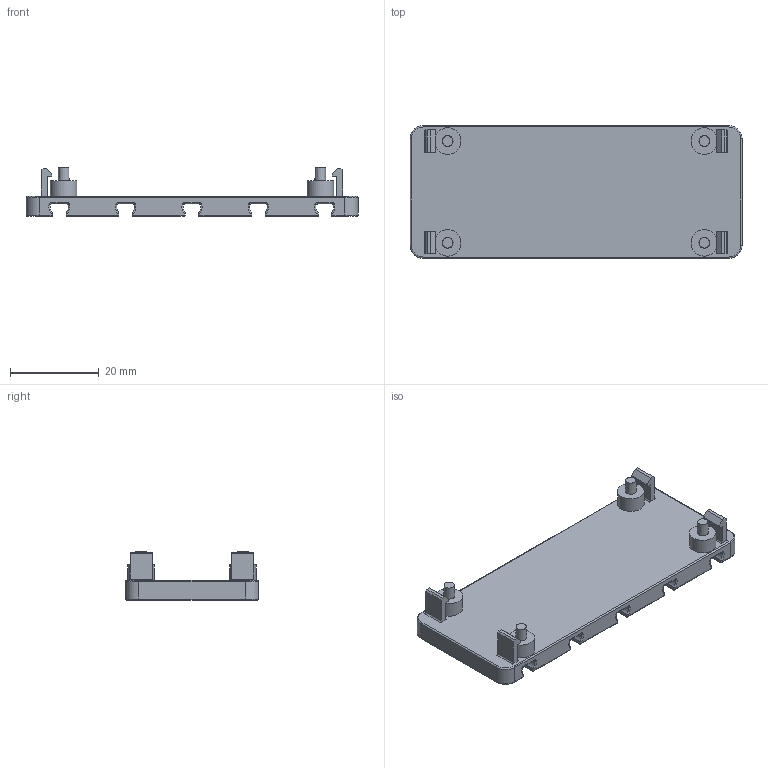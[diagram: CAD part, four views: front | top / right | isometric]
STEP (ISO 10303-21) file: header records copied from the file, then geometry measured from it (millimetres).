
FILE_DESCRIPTION(/* description */ (''),/* implementation_level */ '2;1');
FILE_NAME(/* name */ 'ft_housing-RaspberryPiZero.stp',/* time_stamp */ '2024-03-19T13:07:08+01:00',/* author */ (''),/* organization */ (''),/* preprocessor_version */ 'ST-DEVELOPER v19.4',/* originating_system */ 'SIEMENS PLM Software NX2306.8101',/* authorisation */ '');
FILE_SCHEMA (('AUTOMOTIVE_DESIGN { 1 0 10303 214 3 1 1 1 }'));
Length unit declared in the file: millimetre
Products named in the file (1): ft_housing-RaspberryPiZero
Bounding box: 75 x 30 x 11 mm (x, y, z)
Volume: 9213.5 mm3; surface area: 6918.4 mm2
Topology: 1 solids, 1 shells, 209 faces, 488 edges, 291 vertices
Faces by surface type: cylinder 85, plane 70, torus 48, cone 4, sphere 2
Full cylindrical faces by diameter (mm): 6 x4
Entity records: 6191 total; most frequent: CARTESIAN_POINT 1337, DIRECTION 1085, ORIENTED_EDGE 954, EDGE_CURVE 477, AXIS2_PLACEMENT_3D 418, VERTEX_POINT 290, LINE 249, VECTOR 249
